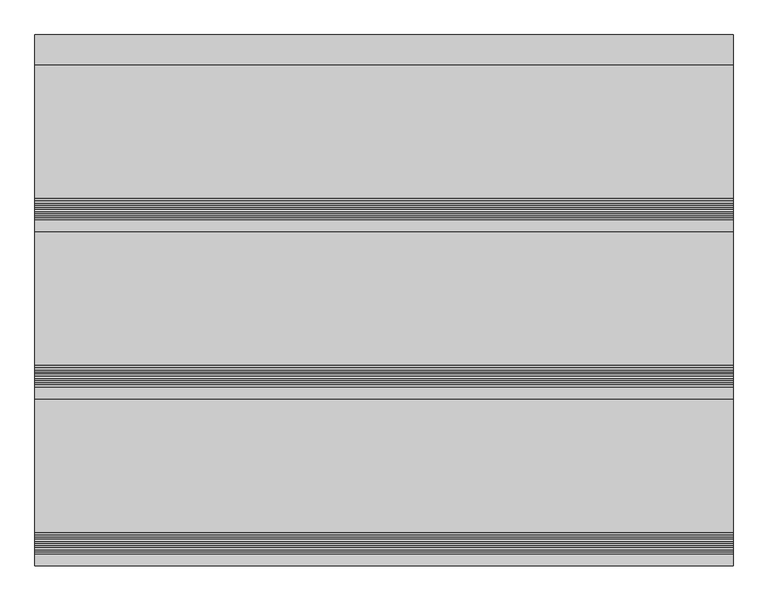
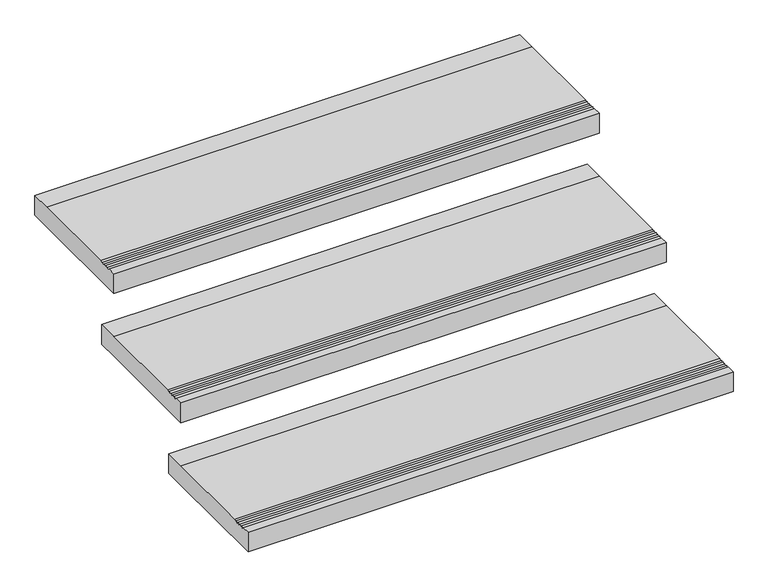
"""IFC4 building model written with IfcOpenShell, lengths in millimetres: stair flight geometry, Giron 30 mm nez de marche 20 mm."""

import ifcopenshell
import ifcopenshell.guid

model = None  # the IFC model being written
_history = None  # IfcOwnerHistory: only IFC2X3 demands one
_inside = {}  # id of a spatial element -> (the spatial element, [elements in it])
_under = {}  # id of a project, library or spatial element -> (it, [spatial elements below it])
_declared = {}  # id of a project -> (the project, [libraries it declares])
_typed = {}  # id of a type object -> (the type object, [elements of that type])
_made_of = {}  # id of a material, layer set ... -> (it, [elements and type objects made of it])


def new_model(schema):
    """Start an empty IFC model of exactly this schema.

    Asked for "IFC4X3", IfcOpenShell would pick the latest addendum, in which some entities
    have other attributes; the version numbers below select the first issue.
    IFC2X3 requires an IfcOwnerHistory on every rooted entity: one is made here for all.
    """
    global model, _history
    if schema == "IFC4X3":
        model = ifcopenshell.file(schema_version=(4, 3, 0, 0))
    else:
        model = ifcopenshell.file(schema=schema)
    _inside.clear()
    _under.clear()
    _declared.clear()
    _typed.clear()
    _made_of.clear()
    _history = None
    if model.schema == "IFC2X3":
        org = make("IfcOrganization", Name="unknown")
        user = make(
            "IfcPersonAndOrganization",
            ThePerson=make("IfcPerson", FamilyName="unknown"),
            TheOrganization=org,
        )
        app = make(
            "IfcApplication",
            ApplicationDeveloper=org,
            Version="unknown",
            ApplicationFullName="unknown",
            ApplicationIdentifier="unknown",
        )
        _history = make(
            "IfcOwnerHistory",
            OwningUser=user,
            OwningApplication=app,
            ChangeAction="ADDED",
            CreationDate=0,
        )
    return model


def make(cls, **values):
    """One entity of the class cls with the attributes given. An attribute that is None is left unset."""
    return model.create_entity(
        cls, **{name: value for name, value in values.items() if value is not None}
    )


def rooted(cls, **values):
    """An entity with a GlobalId (a new one), such as an element, a storey or a relation."""
    return make(cls, GlobalId=ifcopenshell.guid.new(), OwnerHistory=_history, **values)


def si_unit(unit_type, name, prefix=None):
    """IfcSIUnit, for example si_unit("LENGTHUNIT", "METRE", prefix="MILLI")."""
    return make("IfcSIUnit", UnitType=unit_type, Prefix=prefix, Name=name)


def assignment(units):
    """IfcUnitAssignment: the units of a project."""
    return None if units is None else make("IfcUnitAssignment", Units=units)


def point(xyz):
    """IfcCartesianPoint."""
    return None if xyz is None else make("IfcCartesianPoint", Coordinates=xyz)


def direction(xyz):
    """IfcDirection."""
    return None if xyz is None else make("IfcDirection", DirectionRatios=xyz)


def frame(location, z_axis=None, x_axis=None):
    """IfcAxis2Placement3D, a coordinate frame: its origin and axes. An axis left out is left unset."""
    return make(
        "IfcAxis2Placement3D",
        Location=point(location),
        Axis=direction(z_axis),
        RefDirection=direction(x_axis),
    )


def origin():
    """The frame at (0, 0, 0) with its axes left unset."""
    return frame((0.0, 0.0, 0.0))


def place(relative_to, where):
    """IfcLocalPlacement: puts the frame where relative to a parent placement (None: the world)."""
    return make(
        "IfcLocalPlacement", PlacementRelTo=relative_to, RelativePlacement=where
    )


def context(
    kind, dimensions, precision=None, world=None, true_north=None, identifier=None
):
    """IfcGeometricRepresentationContext, for example the 3D "Model" context."""
    return make(
        "IfcGeometricRepresentationContext",
        ContextIdentifier=identifier,
        ContextType=kind,
        CoordinateSpaceDimension=dimensions,
        Precision=precision,
        WorldCoordinateSystem=world,
        TrueNorth=true_north,
    )


def project(units=None, contexts=None):
    """IfcProject with its units and contexts."""
    return rooted(
        "IfcProject",
        Name="project",
        RepresentationContexts=contexts,
        UnitsInContext=assignment(units),
    )


def spatial(cls, under=None, at=None, **own):
    """A site, building, storey or space (cls), placed at a placement, below another one or the project."""
    s = rooted(cls, ObjectPlacement=at, **own)
    if under is not None:
        _under.setdefault(under.id(), (under, []))[1].append(s)
    return s


def polyline(points):
    """IfcPolyline through the points."""
    return make("IfcPolyline", Points=[point(p) for p in points])


def outline(outer, holes=None, kind="AREA"):
    """IfcArbitraryClosedProfileDef: a profile drawn as a closed curve; with holes, ...WithVoids."""
    if holes is None:
        return make("IfcArbitraryClosedProfileDef", ProfileType=kind, OuterCurve=outer)
    return make(
        "IfcArbitraryProfileDefWithVoids",
        ProfileType=kind,
        OuterCurve=outer,
        InnerCurves=holes,
    )


def extrude(swept, where, along, depth):
    """IfcExtrudedAreaSolid: the profile swept, set in the frame where, extruded along a direction by depth."""
    return make(
        "IfcExtrudedAreaSolid",
        SweptArea=swept,
        Position=where,
        ExtrudedDirection=direction(along),
        Depth=depth,
    )


def shape(context_of_items, identifier, shape_type, items):
    """IfcShapeRepresentation: the items that make up one representation, for example the "Body"."""
    return make(
        "IfcShapeRepresentation",
        ContextOfItems=context_of_items,
        RepresentationIdentifier=identifier,
        RepresentationType=shape_type,
        Items=items,
    )


def source(mapping_origin, context_of_items, identifier, shape_type, items):
    """IfcRepresentationMap: a shape defined once, which mapped items show again and again."""
    return make(
        "IfcRepresentationMap",
        MappingOrigin=mapping_origin,
        MappedRepresentation=shape(context_of_items, identifier, shape_type, items),
    )


def transform(
    local_origin,
    x_axis=None,
    y_axis=None,
    z_axis=None,
    scale=None,
    scale2=None,
    scale3=None,
    uniform=True,
):
    """IfcCartesianTransformationOperator3D, or its non-uniform kind. x_axis, y_axis, z_axis: its Axis1, 2, 3."""
    if uniform:
        return make(
            "IfcCartesianTransformationOperator3D",
            Axis1=direction(x_axis),
            Axis2=direction(y_axis),
            LocalOrigin=point(local_origin),
            Scale=scale,
            Axis3=direction(z_axis),
        )
    return make(
        "IfcCartesianTransformationOperator3DnonUniform",
        Axis1=direction(x_axis),
        Axis2=direction(y_axis),
        LocalOrigin=point(local_origin),
        Scale=scale,
        Axis3=direction(z_axis),
        Scale2=scale2,
        Scale3=scale3,
    )


def mapped(mapping_source, mapping_target):
    """IfcMappedItem: shows the shape of a source again, moved by a transform."""
    return make(
        "IfcMappedItem", MappingSource=mapping_source, MappingTarget=mapping_target
    )


def made_of(thing, what):
    """Note that an element or type object is made of a material, layer set ...; save() writes the relation."""
    if what is not None:
        _made_of.setdefault(what.id(), (what, []))[1].append(thing)
    return thing


def element(
    cls,
    number,
    at=None,
    inside=None,
    cuts=None,
    type_object=None,
    material=None,
    context=None,
    identifier="Body",
    shape_type=None,
    held_by="IfcProductDefinitionShape",
    body=None,
    shapes=None,
    **own,
):
    """One element of the class cls, such as IfcWall. Its Tag is "e" and its number.

    at: its placement. inside: the storey or other place that contains it. cuts: it is an
    opening in that element (IfcRelVoidsElement). A single representation is given by context,
    identifier, shape_type and body (its items); several are given by shapes. held_by: the class
    of the entity that holds the representations. save() writes the other relations.
    """
    e = rooted(cls, Tag="e%d" % number, ObjectPlacement=at, **own)
    if body is not None:
        shapes = [shape(context, identifier, shape_type, body)]
    if shapes is not None:
        e.Representation = make(held_by, Representations=shapes)
    if inside is not None:
        _inside.setdefault(inside.id(), (inside, []))[1].append(e)
    if cuts is not None:
        rooted(
            "IfcRelVoidsElement", RelatingBuildingElement=cuts, RelatedOpeningElement=e
        )
    if type_object is not None:
        _typed.setdefault(type_object.id(), (type_object, []))[1].append(e)
    return made_of(e, material)


def aggregate(whole, parts):
    """IfcRelAggregates: a whole, such as a stair, and the parts it consists of."""
    return rooted("IfcRelAggregates", RelatingObject=whole, RelatedObjects=parts)


def save(model, path):
    """Write the relations noted so far, then the file.

    IfcRelAggregates (storeys below a building ...), IfcRelContainedInSpatialStructure (elements
    in a storey), IfcRelDefinesByType, IfcRelAssociatesMaterial and IfcRelDeclares: one each for
    every whole, place, type object, material and project.
    """
    for whole, parts in _under.values():
        aggregate(whole, parts)
    for where, things in _inside.values():
        rooted(
            "IfcRelContainedInSpatialStructure",
            RelatedElements=things,
            RelatingStructure=where,
        )
    for kind, things in _typed.values():
        rooted("IfcRelDefinesByType", RelatedObjects=things, RelatingType=kind)
    for what, things in _made_of.values():
        rooted("IfcRelAssociatesMaterial", RelatedObjects=things, RelatingMaterial=what)
    for by, libraries in _declared.values():
        rooted("IfcRelDeclares", RelatingContext=by, RelatedDefinitions=libraries)
    model.write(path)


def stair_flight_02881c63(model_context):
    return source(origin(), model_context, "Body", "SweptSolid", [
        extrude(outline(polyline([(1347.4239114, 5480.0), (1572.0685723, 5480.0), (1622.0685723, 5480.0), (1622.0685723, 5430.0), (1572.0685723, 5430.0), (1292.0685723, 5430.0), (1292.0685723, 5480.0), (1312.0685723, 5480.0), (1315.6041062, 5476.4644661), (1319.1396401, 5480.0), (1322.675174, 5476.4644661), (1326.2107079, 5480.0), (1329.7462418, 5476.4644661), (1333.2817757, 5480.0), (1336.8173096, 5476.4644661), (1340.3528435, 5480.0), (1343.8883774, 5476.4644661), (1347.4239114, 5480.0)])), frame((10693.2466393, 0.0, 0.0), z_axis=(1.0, 0.0, 0.0), x_axis=(0.0, 1.0, 0.0)), (0.0, 0.0, 1.0), 1169.716729),
        extrude(outline(polyline([(1627.4239114, 5640.0), (1852.0685723, 5640.0), (1902.0685723, 5640.0), (1902.0685723, 5590.0), (1852.0685723, 5590.0), (1572.0685723, 5590.0), (1572.0685723, 5640.0), (1592.0685723, 5640.0), (1595.6041062, 5636.4644661), (1599.1396401, 5640.0), (1602.675174, 5636.4644661), (1606.2107079, 5640.0), (1609.7462418, 5636.4644661), (1613.2817757, 5640.0), (1616.8173096, 5636.4644661), (1620.3528435, 5640.0), (1623.8883774, 5636.4644661), (1627.4239114, 5640.0)])), frame((10693.2466393, 0.0, 0.0), z_axis=(1.0, 0.0, 0.0), x_axis=(0.0, 1.0, 0.0)), (0.0, 0.0, 1.0), 1169.716729),
        extrude(outline(polyline([(1907.4239114, 5800.0), (2132.0685723, 5800.0), (2182.0685723, 5800.0), (2182.0685723, 5750.0), (2132.0685723, 5750.0), (1852.0685723, 5750.0), (1852.0685723, 5800.0), (1872.0685723, 5800.0), (1875.6041062, 5796.4644661), (1879.1396401, 5800.0), (1882.675174, 5796.4644661), (1886.2107079, 5800.0), (1889.7462418, 5796.4644661), (1893.2817757, 5800.0), (1896.8173096, 5796.4644661), (1900.3528435, 5800.0), (1903.8883774, 5796.4644661), (1907.4239114, 5800.0)])), frame((10693.2466393, 0.0, 0.0), z_axis=(1.0, 0.0, 0.0), x_axis=(0.0, 1.0, 0.0)), (0.0, 0.0, 1.0), 1169.716729),
    ])


if __name__ == "__main__":
    model = new_model("IFC4")
    model_context = context("Model", 3, world=origin())
    ifc_project = project(units=[si_unit("LENGTHUNIT", "METRE", prefix="MILLI")], contexts=[model_context])
    site = spatial("IfcSite", under=ifc_project)
    building = spatial("IfcBuilding", under=site)
    placement = place(None, origin())
    stair_flight_shape = stair_flight_02881c63(model_context)
    element("IfcStairFlight", 1, ObjectType="Giron 30 mm nez de marche 20 mm", at=placement, inside=building, context=model_context, shape_type="MappedRepresentation", body=[
        mapped(stair_flight_shape, transform((0.0, 0.0, 0.0), x_axis=(1.0, 0.0, 0.0), y_axis=(0.0, 1.0, 0.0), z_axis=(0.0, 0.0, 1.0))),
    ])
    save(model, "model.ifc")
